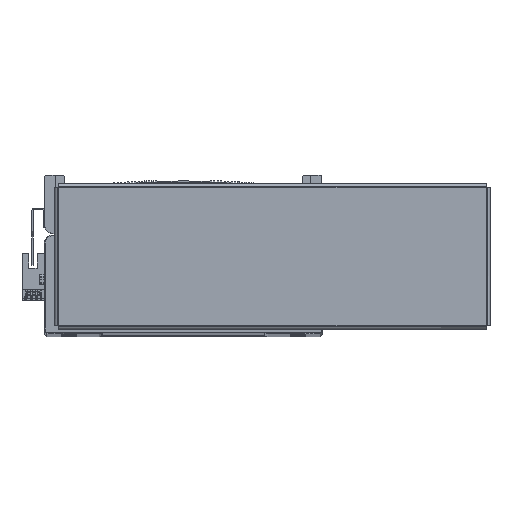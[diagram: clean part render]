
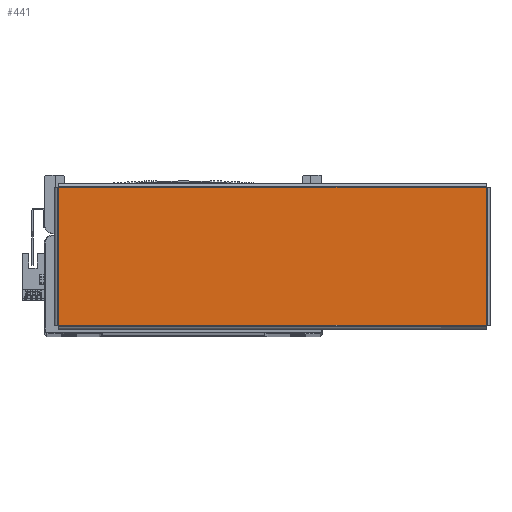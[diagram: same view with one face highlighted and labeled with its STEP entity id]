
A CAD part, top view. The second image highlights one B-rep face of the part: STEP entity #441.
In plain terms, the highlighted planar face has unit normal (0, 0, 1) as drawn and (0, -1, 0) by its records, which use the part's own axes.
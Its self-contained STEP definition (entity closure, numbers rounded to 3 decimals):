
#441 = ADVANCED_FACE ( 'NONE', ( #17855 ), #15225, .F. ) ;
#15225 = PLANE ( 'NONE',  #58191 ) ;
#15243 = DIRECTION ( 'NONE',  ( 0., 1., 0. ) ) ;
#15247 = CARTESIAN_POINT ( 'NONE',  ( 0., -1.5, 0. ) ) ;
#15254 = DIRECTION ( 'NONE',  ( 0., 0., 1. ) ) ;
#16385 = CARTESIAN_POINT ( 'NONE',  ( -130.893, -1.5, -42.263 ) ) ;
#16405 = CARTESIAN_POINT ( 'NONE',  ( -130.863, -1.5, 42.293 ) ) ;
#16418 = DIRECTION ( 'NONE',  ( 1., 0., 0. ) ) ;
#16425 = DIRECTION ( 'NONE',  ( -1., 0., 0. ) ) ;
#16432 = CARTESIAN_POINT ( 'NONE',  ( 130.893, -1.5, 42.263 ) ) ;
#16433 = DIRECTION ( 'NONE',  ( 0., 0., -1. ) ) ;
#17855 = FACE_OUTER_BOUND ( 'NONE', #70093, .T. ) ;
#27626 = LINE ( 'NONE', #16432, #27638 ) ;
#27638 = VECTOR ( 'NONE', #16425, 1000. ) ;
#27651 = LINE ( 'NONE', #16385, #27652 ) ;
#27652 = VECTOR ( 'NONE', #16418, 1000. ) ;
#27701 = LINE ( 'NONE', #16405, #27735 ) ;
#27735 = VECTOR ( 'NONE', #16433, 1000. ) ;
#29150 = CARTESIAN_POINT ( 'NONE',  ( -130.863, -1.5, -42.263 ) ) ;
#29247 = CARTESIAN_POINT ( 'NONE',  ( -130.863, -1.5, 42.263 ) ) ;
#29271 = CARTESIAN_POINT ( 'NONE',  ( 130.863, -1.5, 42.263 ) ) ;
#29316 = CARTESIAN_POINT ( 'NONE',  ( 130.863, -1.5, -42.263 ) ) ;
#31328 = CARTESIAN_POINT ( 'NONE',  ( 130.863, -1.5, -42.293 ) ) ;
#31330 = DIRECTION ( 'NONE',  ( 0., 0., 1. ) ) ;
#35231 = LINE ( 'NONE', #31328, #35234 ) ;
#35234 = VECTOR ( 'NONE', #31330, 1000. ) ;
#38856 = EDGE_CURVE ( 'NONE', #64866, #64887, #35231, .T. ) ;
#58191 = AXIS2_PLACEMENT_3D ( 'NONE', #15247, #15243, #15254 ) ;
#62190 = ORIENTED_EDGE ( 'NONE', *, *, #67839, .T. ) ;
#62200 = ORIENTED_EDGE ( 'NONE', *, *, #67821, .T. ) ;
#62233 = ORIENTED_EDGE ( 'NONE', *, *, #38856, .T. ) ;
#62234 = ORIENTED_EDGE ( 'NONE', *, *, #67827, .T. ) ;
#64794 = VERTEX_POINT ( 'NONE', #29247 ) ;
#64808 = VERTEX_POINT ( 'NONE', #29150 ) ;
#64866 = VERTEX_POINT ( 'NONE', #29316 ) ;
#64887 = VERTEX_POINT ( 'NONE', #29271 ) ;
#67821 = EDGE_CURVE ( 'NONE', #64808, #64866, #27651, .T. ) ;
#67827 = EDGE_CURVE ( 'NONE', #64887, #64794, #27626, .T. ) ;
#67839 = EDGE_CURVE ( 'NONE', #64794, #64808, #27701, .T. ) ;
#70093 = EDGE_LOOP ( 'NONE', ( #62233, #62234, #62190, #62200 ) ) ;
